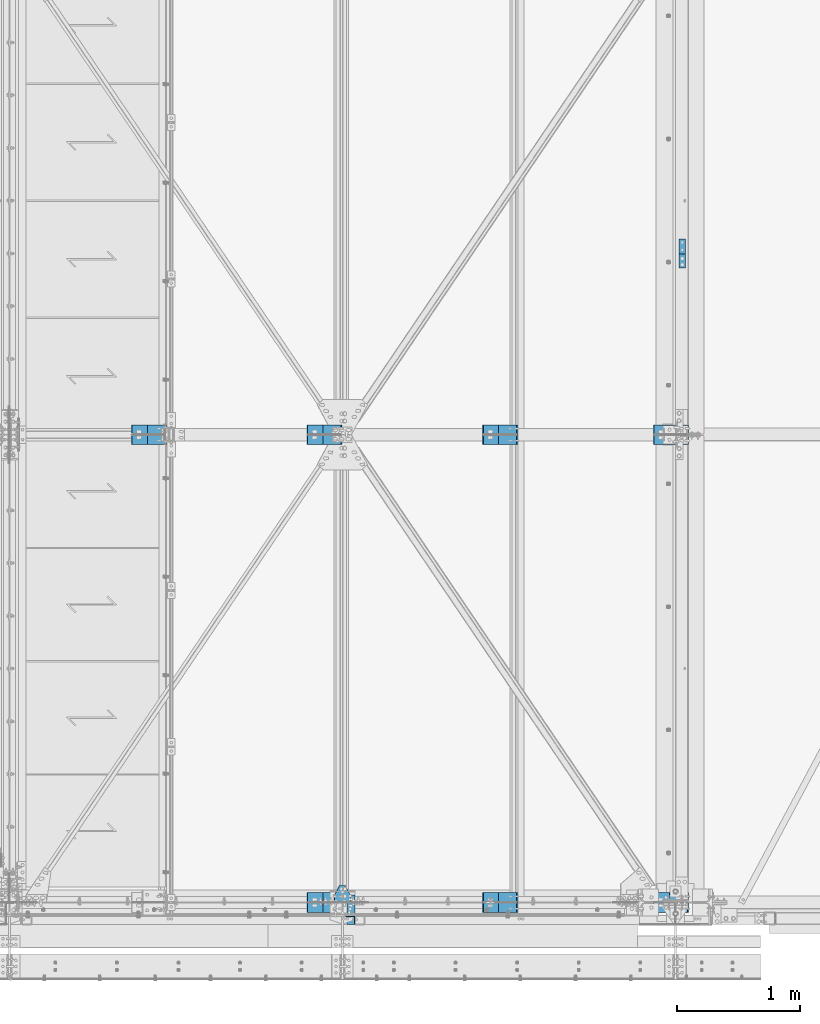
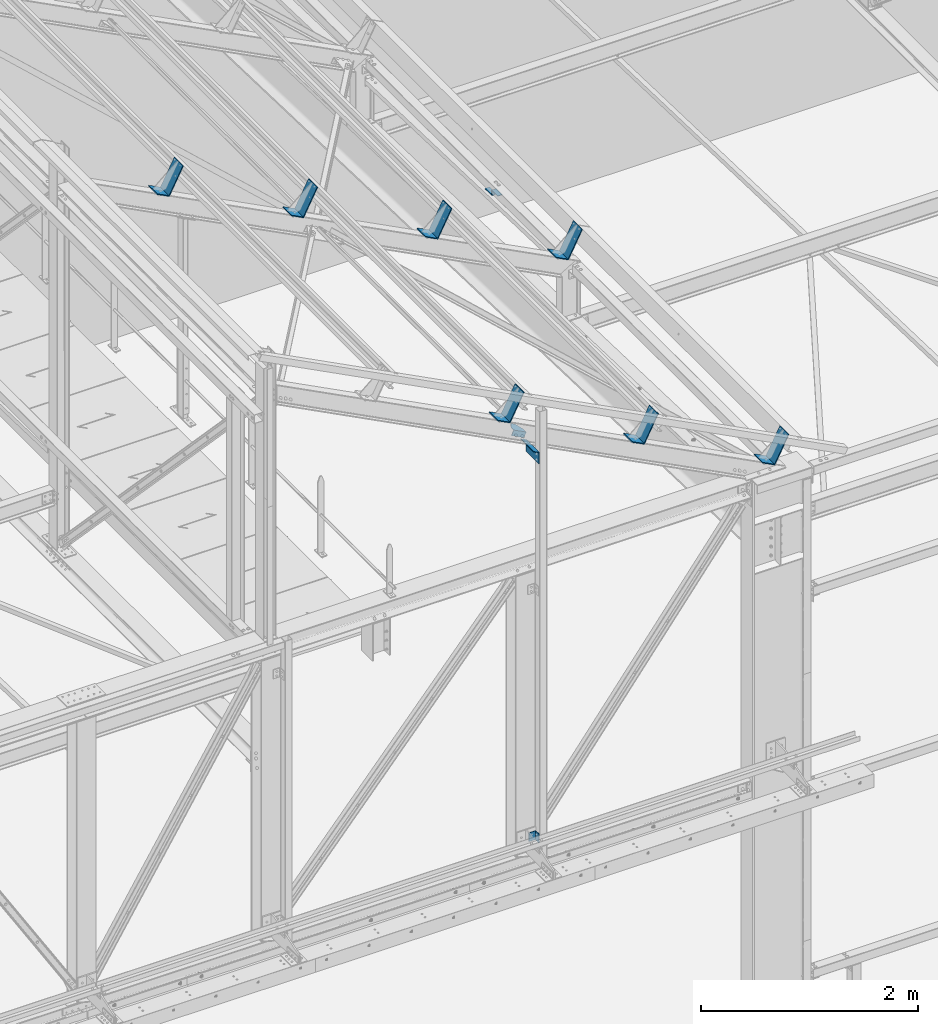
# One storey, part 358 of 362: 11 beams, 11 elements without a shape of their own.
"""IFC2X3 building model written with IfcOpenShell, lengths in millimetres."""

from ifc_helpers import new_model, si_unit, frame, origin_with_axes, place, context, subcontext, project, spatial, faceted_brep, material, type_object, element, aggregate, save


model = new_model("IFC2X3")

# Units and contexts
model_context = context("Model", 3, precision=1e-05, world=origin_with_axes())
body_context = subcontext(model_context, "Body", "Model", "MODEL_VIEW")
ifc_project = project(units=[si_unit("LENGTHUNIT", "METRE", prefix="MILLI"), si_unit("AREAUNIT", "SQUARE_METRE"), si_unit("VOLUMEUNIT", "CUBIC_METRE"), si_unit("MASSUNIT", "GRAM", prefix="KILO"), si_unit("TIMEUNIT", "SECOND"), si_unit("PLANEANGLEUNIT", "RADIAN"), si_unit("SOLIDANGLEUNIT", "STERADIAN"), si_unit("THERMODYNAMICTEMPERATUREUNIT", "DEGREE_CELSIUS"), si_unit("LUMINOUSINTENSITYUNIT", "LUMEN")], contexts=[model_context])

# Site, building, storey
site_placement = place(None, origin_with_axes())
site = spatial("IfcSite", under=ifc_project, at=site_placement, Name="Undefined", CompositionType="ELEMENT")
building_placement = place(site_placement, origin_with_axes())
building = spatial("IfcBuilding", under=site, at=building_placement, Name="Undefined", CompositionType="ELEMENT")
storey_placement = place(building_placement, origin_with_axes())
storey = spatial("IfcBuildingStorey", under=building, at=storey_placement, Name="Undefined", CompositionType="ELEMENT", Elevation=0.0)

# Assembly, beam
assembly_1_placement = place(storey_placement, origin_with_axes())
assembly_1 = element("IfcElementAssembly", 1, at=assembly_1_placement, inside=storey, AssemblyPlace="NOTDEFINED", PredefinedType="NOTDEFINED")
ifc_material = material(Name="Undefined/S235-E24")
beam_type_1 = type_object("IfcBeamType", Name="PL5*100", PredefinedType="NOTDEFINED")
beam_1_placement = place(assembly_1_placement, frame((26272.5080387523, -175.000000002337, 5390.00066228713), z_axis=(0.0, 0.0, 1.0), x_axis=(0.0, 1.0, 0.0)))
beam_1 = element("IfcBeam", 2, at=beam_1_placement, type_object=beam_type_1, material=ifc_material, Name="ATTACHE", ObjectType="PL5*100", context=body_context, shape_type="Brep", body=[
    faceted_brep([(0.0, -2.5, -50.0), (0.0, -2.5, 50.0), (0.0, 2.5, 50.0), (0.0, 2.5, -50.0), (59.9994583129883, 2.5, 50.0), (59.9994583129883, 2.5, -50.0), (64.9994583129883, -2.5, -50.0), (64.9994583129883, -2.5, 50.0), (59.9994583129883, 72.5, 50.0), (59.9994583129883, 72.5, -50.0), (64.9994583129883, 72.5, 50.0), (64.9994583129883, 72.5, -50.0)], [[[0, 1, 2, 3]], [[3, 2, 4, 5]], [[1, 0, 6, 7]], [[5, 4, 8, 9]], [[4, 2, 1, 7, 10, 8]], [[7, 6, 11, 10]], [[6, 0, 3, 5, 9, 11]], [[10, 11, 9, 8]]]),
])
aggregate(assembly_1, [beam_1])

assembly_2_placement = place(storey_placement, origin_with_axes())
assembly_2 = element("IfcElementAssembly", 3, at=assembly_2_placement, inside=storey, Name="PANNE SHED", AssemblyPlace="NOTDEFINED", PredefinedType="NOTDEFINED")
beam_type_2 = type_object("IfcBeamType", Name="PL10*160", PredefinedType="NOTDEFINED")
beam_2_placement = place(assembly_2_placement, frame((24741.3379597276, 3800.0000408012, 11118.1442193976), z_axis=(0.0, -1.0, 0.0), x_axis=(-0.460093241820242, 0.0, -0.887870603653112)))
beam_2 = element("IfcBeam", 4, at=beam_2_placement, type_object=beam_type_2, material=ifc_material, Name="PANNE SHED", ObjectType="PL10*160", context=body_context, shape_type="Brep", body=[
    faceted_brep([(5.07934601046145e-08, -5.00000000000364, -80.0), (5.081164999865e-08, -5.0, 80.0), (-5.08007360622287e-08, 5.0, 79.9999999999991), (-5.0815287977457e-08, 4.99999999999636, -80.0000000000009), (329.999999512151, 5.00000335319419, 79.99999999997), (329.999999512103, 5.00000335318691, -80.00000000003), (319.999998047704, -4.9999967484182, -80.0000000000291), (319.999998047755, -4.99999674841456, 79.9999999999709), (329.999977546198, -144.999983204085, 79.9999999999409), (329.999977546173, -144.999983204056, -80.0000000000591), (319.999977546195, -144.999981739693, 79.9999999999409), (319.999977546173, -144.999981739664, -80.0000000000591)], [[[0, 1, 2, 3]], [[3, 2, 4, 5]], [[1, 0, 6, 7]], [[5, 4, 8, 9]], [[4, 2, 1, 7, 10, 8]], [[7, 6, 11, 10]], [[6, 0, 3, 5, 9, 11]], [[10, 11, 9, 8]]]),
])
aggregate(assembly_2, [beam_2])

assembly_3_placement = place(storey_placement, origin_with_axes())
assembly_3 = element("IfcElementAssembly", 5, at=assembly_3_placement, inside=storey, Name="PANNE SHED", AssemblyPlace="NOTDEFINED", PredefinedType="NOTDEFINED")
beam_3_placement = place(assembly_3_placement, frame((28981.2588118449, 4.08011983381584e-05, 8921.02347048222), z_axis=(0.0, -1.0, 0.0), x_axis=(-0.460093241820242, 0.0, -0.887870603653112)))
beam_3 = element("IfcBeam", 6, at=beam_3_placement, type_object=beam_type_2, material=ifc_material, Name="PANNE SHED", ObjectType="PL10*160", context=body_context, shape_type="Brep", body=[
    faceted_brep([(5.07934601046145e-08, -5.00000000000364, -80.0), (5.081164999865e-08, -5.0, 80.0), (-5.08007360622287e-08, 5.0, 79.9999999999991), (-5.0815287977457e-08, 4.99999999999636, -80.0000000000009), (329.999999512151, 5.00000335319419, 79.99999999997), (329.999999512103, 5.00000335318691, -80.00000000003), (319.999998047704, -4.9999967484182, -80.0000000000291), (319.999998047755, -4.99999674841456, 79.9999999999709), (329.999977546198, -144.999983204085, 79.9999999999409), (329.999977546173, -144.999983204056, -80.0000000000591), (319.999977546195, -144.999981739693, 79.9999999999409), (319.999977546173, -144.999981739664, -80.0000000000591)], [[[0, 1, 2, 3]], [[3, 2, 4, 5]], [[1, 0, 6, 7]], [[5, 4, 8, 9]], [[4, 2, 1, 7, 10, 8]], [[7, 6, 11, 10]], [[6, 0, 3, 5, 9, 11]], [[10, 11, 9, 8]]]),
])
aggregate(assembly_3, [beam_3])

assembly_4_placement = place(storey_placement, origin_with_axes())
assembly_4 = element("IfcElementAssembly", 7, at=assembly_4_placement, inside=storey, Name="PANNE SHED", AssemblyPlace="NOTDEFINED", PredefinedType="NOTDEFINED")
beam_4_placement = place(assembly_4_placement, frame((28981.2588118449, 3800.0000408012, 8921.02347048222), z_axis=(0.0, -1.0, 0.0), x_axis=(-0.460093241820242, 0.0, -0.887870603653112)))
beam_4 = element("IfcBeam", 8, at=beam_4_placement, type_object=beam_type_2, material=ifc_material, Name="PANNE SHED", ObjectType="PL10*160", context=body_context, shape_type="Brep", body=[
    faceted_brep([(5.07934601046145e-08, -5.00000000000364, -80.0), (5.081164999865e-08, -5.0, 80.0), (-5.08007360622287e-08, 5.0, 79.9999999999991), (-5.0815287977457e-08, 4.99999999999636, -80.0000000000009), (329.999999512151, 5.00000335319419, 79.99999999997), (329.999999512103, 5.00000335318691, -80.00000000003), (319.999998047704, -4.9999967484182, -80.0000000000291), (319.999998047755, -4.99999674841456, 79.9999999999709), (329.999977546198, -144.999983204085, 79.9999999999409), (329.999977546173, -144.999983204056, -80.0000000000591), (319.999977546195, -144.999981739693, 79.9999999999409), (319.999977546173, -144.999981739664, -80.0000000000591)], [[[0, 1, 2, 3]], [[3, 2, 4, 5]], [[1, 0, 6, 7]], [[5, 4, 8, 9]], [[4, 2, 1, 7, 10, 8]], [[7, 6, 11, 10]], [[6, 0, 3, 5, 9, 11]], [[10, 11, 9, 8]]]),
])
aggregate(assembly_4, [beam_4])

assembly_5_placement = place(storey_placement, origin_with_axes())
assembly_5 = element("IfcElementAssembly", 9, at=assembly_5_placement, inside=storey, Name="PANNE SHED", AssemblyPlace="NOTDEFINED", PredefinedType="NOTDEFINED")
beam_5_placement = place(assembly_5_placement, frame((27594.5879611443, 4.08011983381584e-05, 9639.59426561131), z_axis=(0.0, -1.0, 0.0), x_axis=(-0.460093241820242, 0.0, -0.887870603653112)))
beam_5 = element("IfcBeam", 10, at=beam_5_placement, type_object=beam_type_2, material=ifc_material, Name="PANNE SHED", ObjectType="PL10*160", context=body_context, shape_type="Brep", body=[
    faceted_brep([(5.07934601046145e-08, -5.00000000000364, -80.0), (5.081164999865e-08, -5.0, 80.0), (-5.08007360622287e-08, 5.0, 79.9999999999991), (-5.0815287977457e-08, 4.99999999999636, -80.0000000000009), (329.999999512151, 5.00000335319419, 79.99999999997), (329.999999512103, 5.00000335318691, -80.00000000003), (319.999998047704, -4.9999967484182, -80.0000000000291), (319.999998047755, -4.99999674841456, 79.9999999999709), (329.999977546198, -144.999983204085, 79.9999999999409), (329.999977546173, -144.999983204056, -80.0000000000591), (319.999977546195, -144.999981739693, 79.9999999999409), (319.999977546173, -144.999981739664, -80.0000000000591)], [[[0, 1, 2, 3]], [[3, 2, 4, 5]], [[1, 0, 6, 7]], [[5, 4, 8, 9]], [[4, 2, 1, 7, 10, 8]], [[7, 6, 11, 10]], [[6, 0, 3, 5, 9, 11]], [[10, 11, 9, 8]]]),
])
aggregate(assembly_5, [beam_5])

assembly_6_placement = place(storey_placement, origin_with_axes())
assembly_6 = element("IfcElementAssembly", 11, at=assembly_6_placement, inside=storey, Name="PANNE SHED", AssemblyPlace="NOTDEFINED", PredefinedType="NOTDEFINED")
beam_6_placement = place(assembly_6_placement, frame((27594.5879611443, 3800.0000408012, 9639.59426561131), z_axis=(0.0, -1.0, 0.0), x_axis=(-0.460093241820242, 0.0, -0.887870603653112)))
beam_6 = element("IfcBeam", 12, at=beam_6_placement, type_object=beam_type_2, material=ifc_material, Name="PANNE SHED", ObjectType="PL10*160", context=body_context, shape_type="Brep", body=[
    faceted_brep([(5.07934601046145e-08, -5.00000000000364, -80.0), (5.081164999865e-08, -5.0, 80.0), (-5.08007360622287e-08, 5.0, 79.9999999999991), (-5.0815287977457e-08, 4.99999999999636, -80.0000000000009), (329.999999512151, 5.00000335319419, 79.99999999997), (329.999999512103, 5.00000335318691, -80.00000000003), (319.999998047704, -4.9999967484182, -80.0000000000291), (319.999998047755, -4.99999674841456, 79.9999999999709), (329.999977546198, -144.999983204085, 79.9999999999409), (329.999977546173, -144.999983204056, -80.0000000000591), (319.999977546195, -144.999981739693, 79.9999999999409), (319.999977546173, -144.999981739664, -80.0000000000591)], [[[0, 1, 2, 3]], [[3, 2, 4, 5]], [[1, 0, 6, 7]], [[5, 4, 8, 9]], [[4, 2, 1, 7, 10, 8]], [[7, 6, 11, 10]], [[6, 0, 3, 5, 9, 11]], [[10, 11, 9, 8]]]),
])
aggregate(assembly_6, [beam_6])

assembly_7_placement = place(storey_placement, origin_with_axes())
assembly_7 = element("IfcElementAssembly", 13, at=assembly_7_placement, inside=storey, Name="PANNE SHED", AssemblyPlace="NOTDEFINED", PredefinedType="NOTDEFINED")
beam_7_placement = place(assembly_7_placement, frame((26167.9629604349, 4.08011983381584e-05, 10378.8692425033), z_axis=(0.0, -1.0, 0.0), x_axis=(-0.460093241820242, 0.0, -0.887870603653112)))
beam_7 = element("IfcBeam", 14, at=beam_7_placement, type_object=beam_type_2, material=ifc_material, Name="PANNE SHED", ObjectType="PL10*160", context=body_context, shape_type="Brep", body=[
    faceted_brep([(5.07934601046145e-08, -5.00000000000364, -80.0), (5.081164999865e-08, -5.0, 80.0), (-5.08007360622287e-08, 5.0, 79.9999999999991), (-5.0815287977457e-08, 4.99999999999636, -80.0000000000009), (329.999999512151, 5.00000335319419, 79.99999999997), (329.999999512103, 5.00000335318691, -80.00000000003), (319.999998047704, -4.9999967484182, -80.0000000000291), (319.999998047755, -4.99999674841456, 79.9999999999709), (329.999977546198, -144.999983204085, 79.9999999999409), (329.999977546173, -144.999983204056, -80.0000000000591), (319.999977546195, -144.999981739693, 79.9999999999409), (319.999977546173, -144.999981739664, -80.0000000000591)], [[[0, 1, 2, 3]], [[3, 2, 4, 5]], [[1, 0, 6, 7]], [[5, 4, 8, 9]], [[4, 2, 1, 7, 10, 8]], [[7, 6, 11, 10]], [[6, 0, 3, 5, 9, 11]], [[10, 11, 9, 8]]]),
])
aggregate(assembly_7, [beam_7])

assembly_8_placement = place(storey_placement, origin_with_axes())
assembly_8 = element("IfcElementAssembly", 15, at=assembly_8_placement, inside=storey, Name="PANNE SHED", AssemblyPlace="NOTDEFINED", PredefinedType="NOTDEFINED")
beam_8_placement = place(assembly_8_placement, frame((26167.9629604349, 3800.0000408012, 10378.8692425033), z_axis=(0.0, -1.0, 0.0), x_axis=(-0.460093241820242, 0.0, -0.887870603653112)))
beam_8 = element("IfcBeam", 16, at=beam_8_placement, type_object=beam_type_2, material=ifc_material, Name="PANNE SHED", ObjectType="PL10*160", context=body_context, shape_type="Brep", body=[
    faceted_brep([(5.07934601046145e-08, -5.00000000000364, -80.0), (5.081164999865e-08, -5.0, 80.0), (-5.08007360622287e-08, 5.0, 79.9999999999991), (-5.0815287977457e-08, 4.99999999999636, -80.0000000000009), (329.999999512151, 5.00000335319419, 79.99999999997), (329.999999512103, 5.00000335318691, -80.00000000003), (319.999998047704, -4.9999967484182, -80.0000000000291), (319.999998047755, -4.99999674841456, 79.9999999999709), (329.999977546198, -144.999983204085, 79.9999999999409), (329.999977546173, -144.999983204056, -80.0000000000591), (319.999977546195, -144.999981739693, 79.9999999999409), (319.999977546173, -144.999981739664, -80.0000000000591)], [[[0, 1, 2, 3]], [[3, 2, 4, 5]], [[1, 0, 6, 7]], [[5, 4, 8, 9]], [[4, 2, 1, 7, 10, 8]], [[7, 6, 11, 10]], [[6, 0, 3, 5, 9, 11]], [[10, 11, 9, 8]]]),
])
aggregate(assembly_8, [beam_8])

assembly_9_placement = place(storey_placement, origin_with_axes())
assembly_9 = element("IfcElementAssembly", 17, at=assembly_9_placement, inside=storey, AssemblyPlace="NOTDEFINED", PredefinedType="NOTDEFINED")
beam_type_3 = type_object("IfcBeamType", Name="PL5*240", PredefinedType="NOTDEFINED")
beam_9_placement = place(assembly_9_placement, frame((26211.6988246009, -59.9999999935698, 9756.45582522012), z_axis=(0.0, -1.0, 0.0), x_axis=(0.887870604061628, 0.0, -0.460093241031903)))
beam_9 = element("IfcBeam", 18, at=beam_9_placement, type_object=beam_type_3, material=ifc_material, Name="ATTACHE", ObjectType="PL5*240", context=body_context, shape_type="Brep", body=[
    faceted_brep([(1.81898940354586e-12, -2.5, -120.0), (1.81898940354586e-12, -2.5, 120.0), (-1.81898940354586e-12, 2.5, 120.0), (-1.81898940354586e-12, 2.5, -120.0), (70.000001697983, 2.49999994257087, 120.0), (70.000001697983, 2.49999994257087, -120.0), (66.959543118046, -2.50000005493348, -120.0), (66.959543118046, -2.50000005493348, 120.0), (129.812123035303, -112.923178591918, 120.0), (129.812123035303, -112.923178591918, -120.0), (125.37277001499, -115.223644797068, 120.0), (125.37277001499, -115.223644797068, -120.0)], [[[0, 1, 2, 3]], [[3, 2, 4, 5]], [[1, 0, 6, 7]], [[5, 4, 8, 9]], [[4, 2, 1, 7, 10, 8]], [[7, 6, 11, 10]], [[6, 0, 3, 5, 9, 11]], [[10, 11, 9, 8]]]),
])
aggregate(assembly_9, [beam_9])

assembly_10_placement = place(storey_placement, origin_with_axes())
assembly_10 = element("IfcElementAssembly", 19, at=assembly_10_placement, inside=storey, AssemblyPlace="NOTDEFINED", PredefinedType="NOTDEFINED")
beam_type_4 = type_object("IfcBeamType", Name="PL6*50", PredefinedType="NOTDEFINED")
beam_10_placement = place(assembly_10_placement, frame((28935.0, 5155.38587692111, 8447.0), z_axis=(1.0, 0.0, 0.0), x_axis=(0.0, 1.0, 0.0)))
beam_10 = element("IfcBeam", 20, at=beam_10_placement, type_object=beam_type_4, material=ifc_material, Name="ATTACHE", ObjectType="PL6*50", context=body_context, shape_type="Brep", body=[
    faceted_brep([(-5.16229192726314e-09, -3.0, -25.0), (-5.16229192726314e-09, -3.0, 25.0), (5.16229192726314e-09, 3.0, 25.0), (5.16229192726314e-09, 3.0, -25.0), (109.999999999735, 2.99999999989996, 25.0), (109.999999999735, 2.99999999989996, -25.0), (103.99999999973, -3.00000000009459, -25.0), (103.99999999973, -3.00000000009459, 25.0), (109.999999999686, -51.1856165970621, 25.0), (109.999999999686, -51.1856165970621, -25.0), (103.999999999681, -57.0000000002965, -25.0), (103.999999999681, -57.0000000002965, 25.0), (234.124323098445, -55.086831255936, 25.0), (234.124323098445, -55.086831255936, -25.0), (233.935836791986, -61.0838699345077, 25.0), (233.935836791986, -61.0838699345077, -25.0)], [[[0, 1, 2, 3]], [[3, 2, 4, 5]], [[1, 0, 6, 7]], [[5, 4, 8, 9]], [[7, 6, 10, 11]], [[9, 8, 12, 13]], [[8, 4, 2, 1, 7, 11, 14, 12]], [[11, 10, 15, 14]], [[10, 6, 0, 3, 5, 9, 13, 15]], [[14, 15, 13, 12]]]),
])
aggregate(assembly_10, [beam_10])

assembly_11_placement = place(storey_placement, origin_with_axes())
assembly_11 = element("IfcElementAssembly", 21, at=assembly_11_placement, inside=storey, AssemblyPlace="NOTDEFINED", PredefinedType="NOTDEFINED")
beam_type_5 = type_object("IfcBeamType", Name="PL6*150", PredefinedType="NOTDEFINED")
beam_11_placement = place(assembly_11_placement, frame((26173.6240470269, 140.000253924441, 9888.25211379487), z_axis=(-0.887870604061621, -1.29999898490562e-08, 0.460093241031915), x_axis=(0.0, -1.0, 0.0)))
beam_11 = element("IfcBeam", 22, at=beam_11_placement, type_object=beam_type_5, material=ifc_material, Name="ATTACHE", ObjectType="PL6*150", context=body_context, shape_type="Brep", body=[
    faceted_brep([(86.4999995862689, -2.9999999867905, 75.0000000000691), (86.4999996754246, 3.0000000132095, 75.0000000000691), (-4.78621586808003e-10, 3.00000000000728, 25.0001101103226), (4.37211156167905e-10, -2.99999999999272, 25.0001101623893), (130.999999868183, -2.99999997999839, 75.0000000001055), (130.999998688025, -57.0000008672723, 75.0000000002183), (136.999998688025, -57.0000009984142, 75.0000000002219), (136.999999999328, 3.00000002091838, 75.0000000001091), (130.999999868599, -2.99999997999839, -74.9999999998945), (130.999998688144, -57.0000008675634, -74.9999999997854), (136.999998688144, -57.0000009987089, -74.9999999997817), (136.999999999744, 3.00000002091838, -74.9999999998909), (86.5000004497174, 3.0000000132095, -74.9999999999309), (-4.37211156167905e-10, 3.00000000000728, -24.9998900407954), (4.78621586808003e-10, -2.99999999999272, -24.9998900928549), (86.5000003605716, -2.99999998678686, -74.9999999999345)], [[[0, 1, 2, 3]], [[4, 5, 6, 7, 1, 0]], [[4, 8, 9, 5]], [[5, 9, 10, 6]], [[11, 7, 6, 10]], [[2, 1, 7, 11, 12, 13]], [[3, 2, 13, 14]], [[8, 4, 0, 3, 14, 15]], [[11, 10, 9, 8, 15, 12]], [[14, 13, 12, 15]]]),
])
aggregate(assembly_11, [beam_11])

save(model, "model.ifc")
